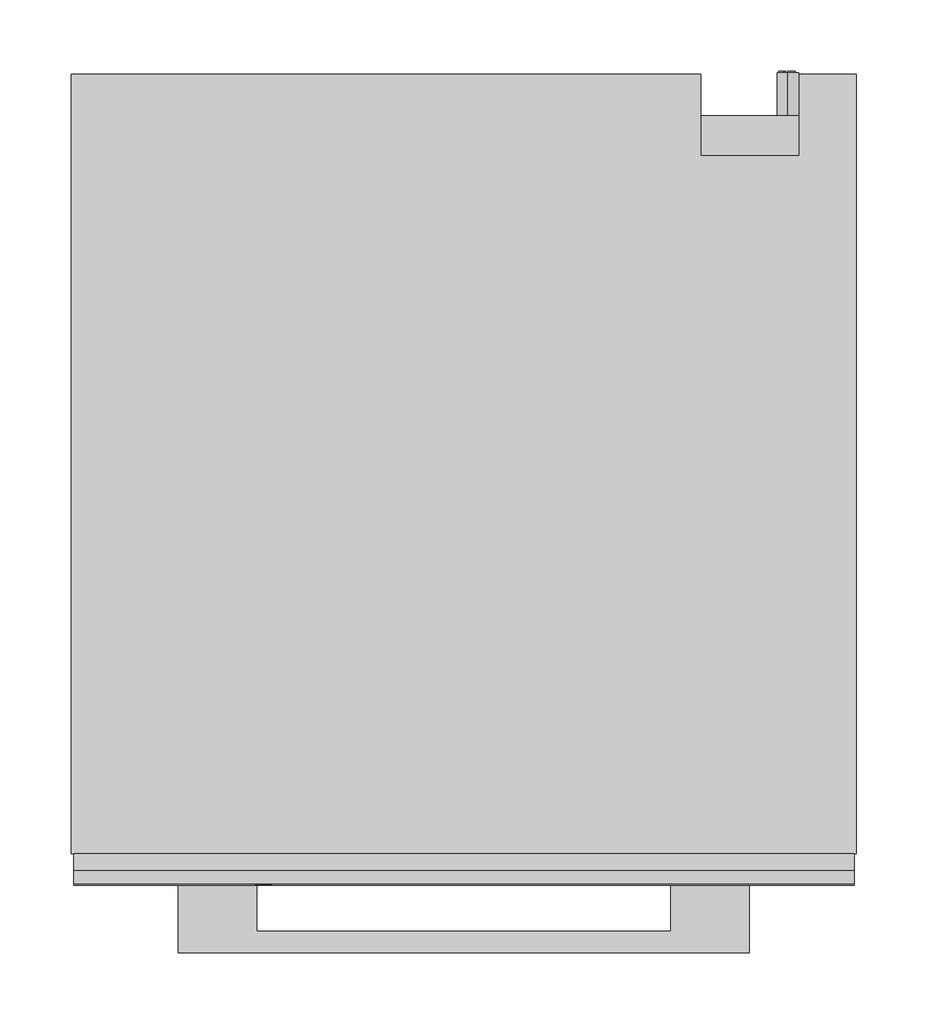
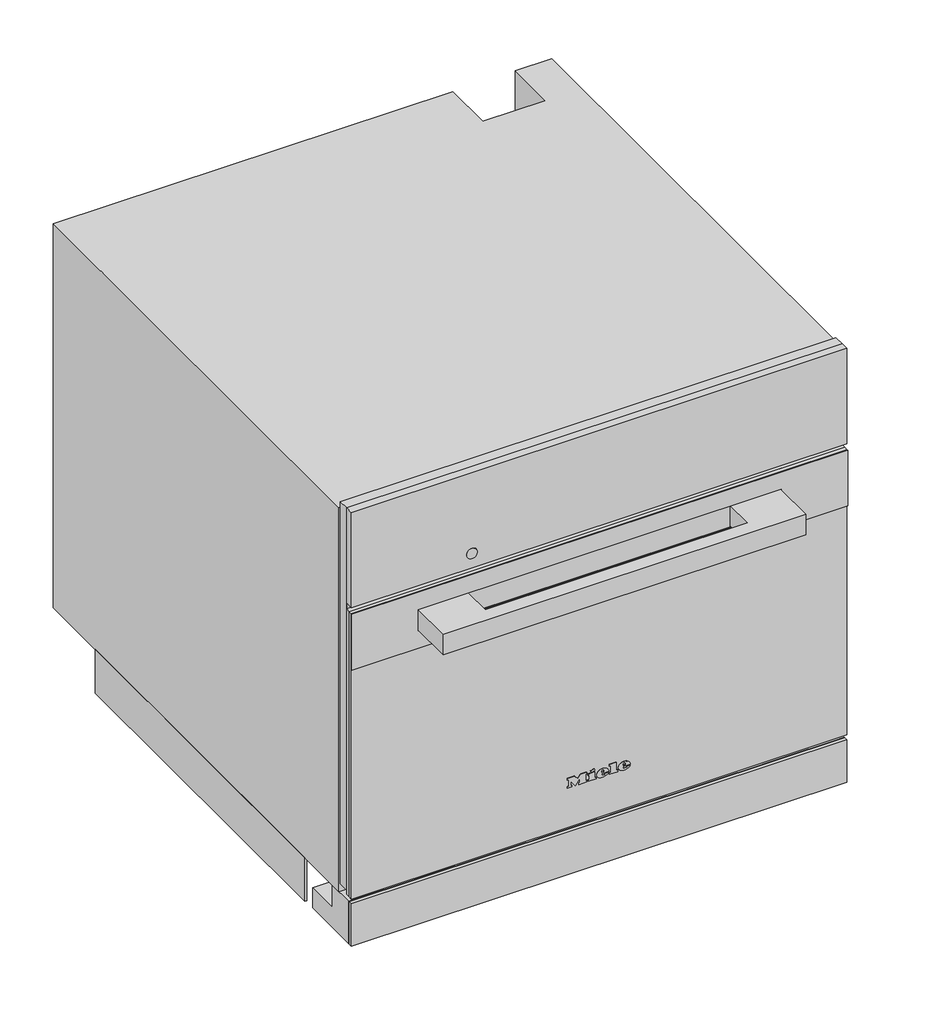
# Not in any storey: 1 proxy.
"""IFC4 building model written with IfcOpenShell, lengths in millimetres."""

from ifc_helpers import new_model, si_unit, origin, place, context, project, spatial, transform, mapped, element, save
from components import specialty_equipment_fdcbd428

model = new_model("IFC4")

# Units and contexts
model_context = context("Model", 3, world=origin())
ifc_project = project(units=[si_unit("LENGTHUNIT", "METRE", prefix="MILLI")], contexts=[model_context])

# Site, building
site = spatial("IfcSite", under=ifc_project)
building = spatial("IfcBuilding", under=site)

# Proxy
placement = place(None, origin())
specialty_equipment_shape = specialty_equipment_fdcbd428(model_context)
element("IfcBuildingElementProxy", 1, Name="12082200_CH_DGC7440-55_EDST-CLS : 23744041_CH_12082200_DGC7440-55_EDST-CLS", ObjectType="12082200_CH_DGC7440-55_EDST-CLS : 23744041_CH_12082200_DGC7440-55_EDST-CLS", at=placement, inside=building, context=model_context, shape_type="MappedRepresentation", body=[
    mapped(specialty_equipment_shape, transform((0.0, 0.0, 0.0), x_axis=(1.0, 0.0, 0.0), y_axis=(0.0, 1.0, 0.0), z_axis=(0.0, 0.0, 1.0))),
])

save(model, "model.ifc")
